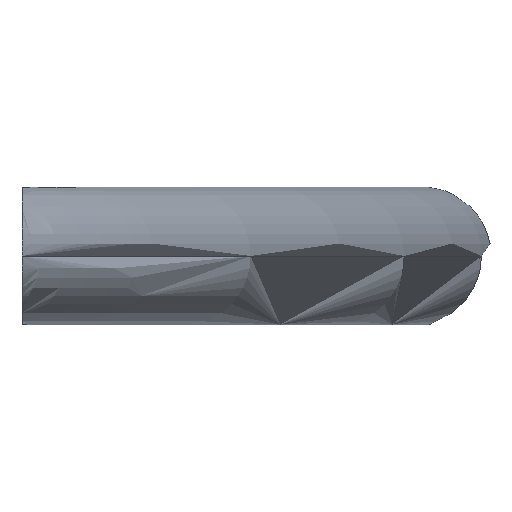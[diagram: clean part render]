
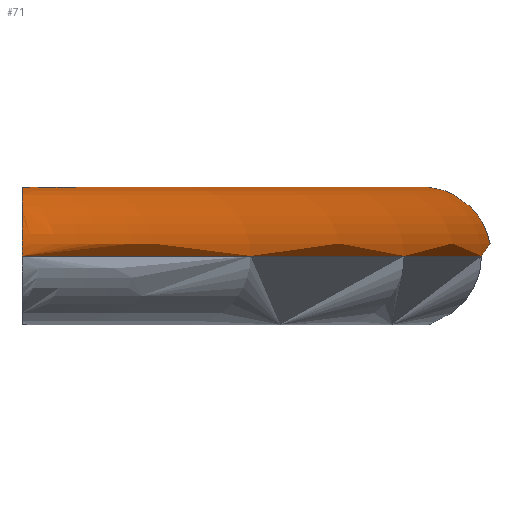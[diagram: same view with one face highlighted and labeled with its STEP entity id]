
A CAD part, left-side view. The second image highlights one B-rep face of the part: STEP entity #71.
In plain terms, the highlighted toroidal (fillet/blend) face has major radius 531.76 mm and minor radius 5 mm.
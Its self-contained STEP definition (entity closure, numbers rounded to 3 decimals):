
#67 = VERTEX_POINT( '', #166 );
#71 = ADVANCED_FACE( '', ( #170 ), #171, .T. );
#99 = EDGE_CURVE( '', #129, #123, #204, .T. );
#101 = VERTEX_POINT( '', #206 );
#117 = EDGE_CURVE( '', #129, #101, #224, .T. );
#119 = EDGE_CURVE( '', #67, #123, #226, .T. );
#123 = VERTEX_POINT( '', #230 );
#125 = EDGE_CURVE( '', #67, #101, #232, .T. );
#129 = VERTEX_POINT( '', #236 );
#166 = CARTESIAN_POINT( '', ( 2.811, 0., 0. ) );
#170 = FACE_OUTER_BOUND( '', #270, .T. );
#171 = TOROIDAL_SURFACE( '', #271, 531.76, 5. );
#204 = B_SPLINE_CURVE_WITH_KNOTS( '', 3, ( #351, #352, #353, #354, #355, #356, #357, #358, #359, #360, #361, #362, #363, #364, #365, #366, #367, #368, #369, #370, #371, #372, #373, #374, #375, #376, #377, #378, #379, #380, #381, #382, #383, #384, #385, #386, #387, #388, #389, #390, #391, #392 ), .UNSPECIFIED., .F., .F., ( 4, 2, 2, 2, 2, 2, 2, 2, 2, 2, 2, 2, 2, 2, 2, 2, 2, 2, 2, 2, 4 ), ( 0., 0.29, 0.579, 0.929, 1.279, 2.473, 3.667, 5.169, 6.671, 9.675, 15.682, 22.114, 25.33, 26.938, 28.546, 29.842, 31.138, 31.483, 31.828, 32.101, 32.374 ), .UNSPECIFIED. );
#206 = CARTESIAN_POINT( '', ( -27.999, 0., 0. ) );
#224 = CIRCLE( '', #417, 536.76 );
#226 = CIRCLE( '', #420, 526.76 );
#230 = CARTESIAN_POINT( '', ( 317.189, 0., 0. ) );
#232 = B_SPLINE_CURVE_WITH_KNOTS( '', 3, ( #429, #430, #431, #432, #433, #434, #435, #436, #437, #438, #439, #440, #441, #442, #443, #444, #445, #446, #447, #448, #449, #450, #451, #452, #453, #454, #455, #456, #457, #458, #459, #460, #461, #462, #463, #464, #465, #466, #467, #468, #469, #470 ), .UNSPECIFIED., .F., .F., ( 4, 2, 2, 2, 2, 2, 2, 2, 2, 2, 2, 2, 2, 2, 2, 2, 2, 2, 2, 2, 4 ), ( 32.374, 32.647, 32.92, 33.265, 33.61, 34.906, 36.202, 37.81, 39.418, 42.634, 49.066, 55.073, 58.077, 59.578, 61.08, 62.275, 63.469, 63.819, 64.169, 64.458, 64.748 ), .UNSPECIFIED. );
#236 = CARTESIAN_POINT( '', ( 347.999, 0., 0. ) );
#270 = EDGE_LOOP( '', ( #551, #552, #553, #554 ) );
#271 = AXIS2_PLACEMENT_3D( '', #555, #556, #557 );
#351 = CARTESIAN_POINT( '', ( 347.999, 0., 0. ) );
#352 = CARTESIAN_POINT( '', ( 347.999, 0., 0.097 ) );
#353 = CARTESIAN_POINT( '', ( 347.991, 0., 0.202 ) );
#354 = CARTESIAN_POINT( '', ( 347.954, 0., 0.41 ) );
#355 = CARTESIAN_POINT( '', ( 347.926, 0., 0.512 ) );
#356 = CARTESIAN_POINT( '', ( 347.857, 0., 0.714 ) );
#357 = CARTESIAN_POINT( '', ( 347.805, 0., 0.83 ) );
#358 = CARTESIAN_POINT( '', ( 347.682, 0., 1.054 ) );
#359 = CARTESIAN_POINT( '', ( 347.611, 0., 1.161 ) );
#360 = CARTESIAN_POINT( '', ( 347.305, 0., 1.574 ) );
#361 = CARTESIAN_POINT( '', ( 346.988, 0., 1.868 ) );
#362 = CARTESIAN_POINT( '', ( 346.294, 0., 2.382 ) );
#363 = CARTESIAN_POINT( '', ( 345.917, 0., 2.604 ) );
#364 = CARTESIAN_POINT( '', ( 345.118, 0., 3.016 ) );
#365 = CARTESIAN_POINT( '', ( 344.652, 0., 3.215 ) );
#366 = CARTESIAN_POINT( '', ( 343.691, 0., 3.573 ) );
#367 = CARTESIAN_POINT( '', ( 343.195, 0., 3.731 ) );
#368 = CARTESIAN_POINT( '', ( 341.674, 0., 4.155 ) );
#369 = CARTESIAN_POINT( '', ( 340.617, 0., 4.372 ) );
#370 = CARTESIAN_POINT( '', ( 337.404, 0., 4.872 ) );
#371 = CARTESIAN_POINT( '', ( 335.211, 0., 5. ) );
#372 = CARTESIAN_POINT( '', ( 331.064, 0., 5. ) );
#373 = CARTESIAN_POINT( '', ( 328.716, 0., 4.852 ) );
#374 = CARTESIAN_POINT( '', ( 325.262, 0., 4.328 ) );
#375 = CARTESIAN_POINT( '', ( 324.123, 0., 4.104 ) );
#376 = CARTESIAN_POINT( '', ( 322.479, 0., 3.675 ) );
#377 = CARTESIAN_POINT( '', ( 321.942, 0., 3.516 ) );
#378 = CARTESIAN_POINT( '', ( 320.898, 0., 3.16 ) );
#379 = CARTESIAN_POINT( '', ( 320.39, 0., 2.963 ) );
#380 = CARTESIAN_POINT( '', ( 319.512, 0., 2.557 ) );
#381 = CARTESIAN_POINT( '', ( 319.091, 0., 2.337 ) );
#382 = CARTESIAN_POINT( '', ( 318.309, 0., 1.821 ) );
#383 = CARTESIAN_POINT( '', ( 317.946, 0., 1.526 ) );
#384 = CARTESIAN_POINT( '', ( 317.599, 0., 1.104 ) );
#385 = CARTESIAN_POINT( '', ( 317.525, 0., 1.002 ) );
#386 = CARTESIAN_POINT( '', ( 317.394, 0., 0.787 ) );
#387 = CARTESIAN_POINT( '', ( 317.338, 0., 0.674 ) );
#388 = CARTESIAN_POINT( '', ( 317.265, 0., 0.481 ) );
#389 = CARTESIAN_POINT( '', ( 317.236, 0., 0.386 ) );
#390 = CARTESIAN_POINT( '', ( 317.198, 0., 0.19 ) );
#391 = CARTESIAN_POINT( '', ( 317.189, 0., 0.091 ) );
#392 = CARTESIAN_POINT( '', ( 317.189, 0., 0. ) );
#417 = AXIS2_PLACEMENT_3D( '', #616, #617, #618 );
#420 = AXIS2_PLACEMENT_3D( '', #619, #620, #621 );
#429 = CARTESIAN_POINT( '', ( 2.811, 0., 0. ) );
#430 = CARTESIAN_POINT( '', ( 2.811, 0., 0.091 ) );
#431 = CARTESIAN_POINT( '', ( 2.802, 0., 0.19 ) );
#432 = CARTESIAN_POINT( '', ( 2.764, 0., 0.386 ) );
#433 = CARTESIAN_POINT( '', ( 2.735, 0., 0.481 ) );
#434 = CARTESIAN_POINT( '', ( 2.662, 0., 0.674 ) );
#435 = CARTESIAN_POINT( '', ( 2.606, 0., 0.787 ) );
#436 = CARTESIAN_POINT( '', ( 2.475, 0., 1.002 ) );
#437 = CARTESIAN_POINT( '', ( 2.401, 0., 1.104 ) );
#438 = CARTESIAN_POINT( '', ( 2.054, 0., 1.526 ) );
#439 = CARTESIAN_POINT( '', ( 1.691, 0., 1.821 ) );
#440 = CARTESIAN_POINT( '', ( 0.909, 0., 2.337 ) );
#441 = CARTESIAN_POINT( '', ( 0.488, 0., 2.557 ) );
#442 = CARTESIAN_POINT( '', ( -0.39, 0., 2.963 ) );
#443 = CARTESIAN_POINT( '', ( -0.898, 0., 3.16 ) );
#444 = CARTESIAN_POINT( '', ( -1.942, 0., 3.516 ) );
#445 = CARTESIAN_POINT( '', ( -2.479, 0., 3.675 ) );
#446 = CARTESIAN_POINT( '', ( -4.123, 0., 4.104 ) );
#447 = CARTESIAN_POINT( '', ( -5.262, 0., 4.328 ) );
#448 = CARTESIAN_POINT( '', ( -8.716, 0., 4.852 ) );
#449 = CARTESIAN_POINT( '', ( -11.064, 0., 5. ) );
#450 = CARTESIAN_POINT( '', ( -15.211, 0., 5. ) );
#451 = CARTESIAN_POINT( '', ( -17.404, 0., 4.872 ) );
#452 = CARTESIAN_POINT( '', ( -20.617, 0., 4.372 ) );
#453 = CARTESIAN_POINT( '', ( -21.674, 0., 4.155 ) );
#454 = CARTESIAN_POINT( '', ( -23.195, 0., 3.731 ) );
#455 = CARTESIAN_POINT( '', ( -23.691, 0., 3.573 ) );
#456 = CARTESIAN_POINT( '', ( -24.652, 0., 3.215 ) );
#457 = CARTESIAN_POINT( '', ( -25.118, 0., 3.016 ) );
#458 = CARTESIAN_POINT( '', ( -25.917, 0., 2.604 ) );
#459 = CARTESIAN_POINT( '', ( -26.294, 0., 2.382 ) );
#460 = CARTESIAN_POINT( '', ( -26.988, 0., 1.868 ) );
#461 = CARTESIAN_POINT( '', ( -27.305, 0., 1.574 ) );
#462 = CARTESIAN_POINT( '', ( -27.611, 0., 1.161 ) );
#463 = CARTESIAN_POINT( '', ( -27.682, 0., 1.054 ) );
#464 = CARTESIAN_POINT( '', ( -27.805, 0., 0.83 ) );
#465 = CARTESIAN_POINT( '', ( -27.857, 0., 0.714 ) );
#466 = CARTESIAN_POINT( '', ( -27.926, 0., 0.512 ) );
#467 = CARTESIAN_POINT( '', ( -27.954, 0., 0.41 ) );
#468 = CARTESIAN_POINT( '', ( -27.991, 0., 0.202 ) );
#469 = CARTESIAN_POINT( '', ( -27.999, 0., 0.097 ) );
#470 = CARTESIAN_POINT( '', ( -27.999, 0., 0. ) );
#551 = ORIENTED_EDGE( '', *, *, #117, .F. );
#552 = ORIENTED_EDGE( '', *, *, #99, .T. );
#553 = ORIENTED_EDGE( '', *, *, #119, .F. );
#554 = ORIENTED_EDGE( '', *, *, #125, .T. );
#555 = CARTESIAN_POINT( '', ( 160., 502.76, 0. ) );
#556 = DIRECTION( '', ( 0., 0., -1. ) );
#557 = DIRECTION( '', ( -1., 0., 0. ) );
#616 = CARTESIAN_POINT( '', ( 160., 502.76, 0. ) );
#617 = DIRECTION( '', ( 0., 0., -1. ) );
#618 = DIRECTION( '', ( -1., 0., 0. ) );
#619 = CARTESIAN_POINT( '', ( 160., 502.76, 0. ) );
#620 = DIRECTION( '', ( 0., 0., 1. ) );
#621 = DIRECTION( '', ( -1., 0., 0. ) );
